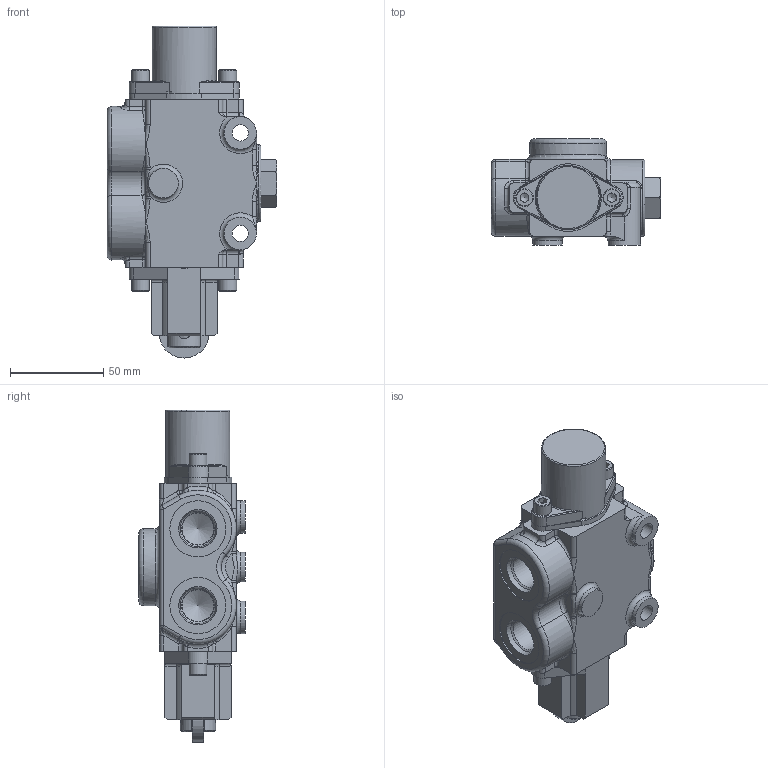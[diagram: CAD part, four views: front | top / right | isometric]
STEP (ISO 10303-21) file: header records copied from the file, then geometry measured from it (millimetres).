
FILE_DESCRIPTION(/* description */ (''),/* implementation_level */ '2;1');
FILE_NAME(/* name */ 'C:\Users\petersw\Desktop\SS-3A4R_Shell.stp',/* time_stamp */ '2015-06-26T11:04:24-05:00',/* author */ ('PetersW'),/* organization */ ('PRINCE MANUFACTURING'),/* preprocessor_version */ 'ST-DEVELOPER v15.2',/* originating_system */ 'Autodesk Inventor 2014',/* authorisation */ '0 in^3');
FILE_SCHEMA (('AUTOMOTIVE_DESIGN { 1 0 10303 214 3 1 1 }'));
Length unit declared in the file: inch
Products named in the file (1): Part1
Bounding box: 90.98 x 57.15 x 178.36 mm (x, y, z)
Volume: 309510.7 mm3; surface area: 64946.8 mm2
Topology: 2 solids, 15 shells, 553 faces, 1409 edges, 851 vertices
Faces by surface type: plane 219, cylinder 170, cone 59, bspline 55, torus 42, sphere 8
Full cylindrical faces by diameter (mm): 4.978 x3, 6.096 x1, 6.35 x5, 6.401 x3, 6.413 x2, 6.604 x1, 6.731 x6, 7.938 x1, 8.712 x2, 9.525 x4, 15.875 x1, 16.764 x2, 17.069 x4, 17.17 x2, 17.462 x2, 17.501 x4, 19.05 x4, 26.924 x1, 29.87 x1, 30.175 x4, 32.829 x1, 34.442 x1, 41.275 x2
Entity records: 19442 total; most frequent: CARTESIAN_POINT 6485, DIRECTION 2576, ORIENTED_EDGE 2438, EDGE_CURVE 1216, AXIS2_PLACEMENT_3D 1024, VERTEX_POINT 799, EDGE_LOOP 705, STYLED_ITEM 555
